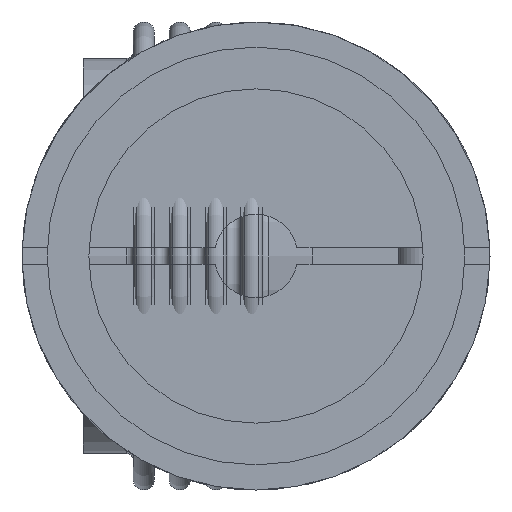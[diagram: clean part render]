
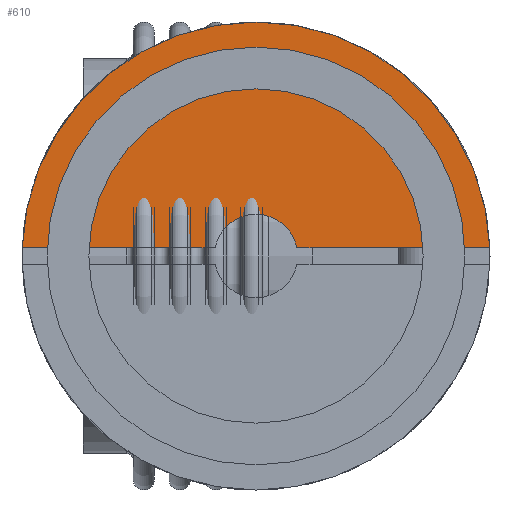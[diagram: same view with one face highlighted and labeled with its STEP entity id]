
A CAD part, front view. The second image highlights one B-rep face of the part: STEP entity #610.
In plain terms, the highlighted planar face has unit normal (0, -1, 0).
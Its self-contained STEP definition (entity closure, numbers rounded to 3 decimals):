
#610 = ADVANCED_FACE( '', ( #899 ), #900, .F. );
#899 = FACE_OUTER_BOUND( '', #1098, .T. );
#900 = PLANE( '', #1099 );
#1098 = EDGE_LOOP( '', ( #1353, #1354, #1355, #1356 ) );
#1099 = AXIS2_PLACEMENT_3D( '', #1357, #1358, #1359 );
#1353 = ORIENTED_EDGE( '', *, *, #1743, .F. );
#1354 = ORIENTED_EDGE( '', *, *, #1732, .F. );
#1355 = ORIENTED_EDGE( '', *, *, #1744, .F. );
#1356 = ORIENTED_EDGE( '', *, *, #1742, .T. );
#1357 = CARTESIAN_POINT( '', ( 0., -27., 0. ) );
#1358 = DIRECTION( '', ( 0., 1., 0. ) );
#1359 = DIRECTION( '', ( 0., 0., 1. ) );
#1732 = EDGE_CURVE( '', #1931, #1933, #1934, .T. );
#1742 = EDGE_CURVE( '', #1947, #1951, #1953, .T. );
#1743 = EDGE_CURVE( '', #1933, #1951, #1954, .T. );
#1744 = EDGE_CURVE( '', #1947, #1931, #1955, .T. );
#1931 = VERTEX_POINT( '', #2150 );
#1933 = VERTEX_POINT( '', #2153 );
#1934 = CIRCLE( '', #2154, 28. );
#1947 = VERTEX_POINT( '', #2249 );
#1951 = VERTEX_POINT( '', #2254 );
#1953 = CIRCLE( '', #2257, 5. );
#1954 = LINE( '', #2258, #2259 );
#1955 = LINE( '', #2260, #2261 );
#2150 = CARTESIAN_POINT( '', ( -27.982, -27., 1. ) );
#2153 = CARTESIAN_POINT( '', ( 27.982, -27., 1. ) );
#2154 = AXIS2_PLACEMENT_3D( '', #2521, #2522, #2523 );
#2249 = CARTESIAN_POINT( '', ( -4.899, -27., 1. ) );
#2254 = CARTESIAN_POINT( '', ( 4.899, -27., 1. ) );
#2257 = AXIS2_PLACEMENT_3D( '', #2542, #2543, #2544 );
#2258 = CARTESIAN_POINT( '', ( 0., -27., 1. ) );
#2259 = VECTOR( '', #2545, 1000. );
#2260 = CARTESIAN_POINT( '', ( 0., -27., 1. ) );
#2261 = VECTOR( '', #2546, 1000. );
#2521 = CARTESIAN_POINT( '', ( 0., -27., 0. ) );
#2522 = DIRECTION( '', ( 0., 1., 0. ) );
#2523 = DIRECTION( '', ( 1., 0., 0. ) );
#2542 = CARTESIAN_POINT( '', ( 0., -27., 0. ) );
#2543 = DIRECTION( '', ( 0., 1., 0. ) );
#2544 = DIRECTION( '', ( 1., 0., 0. ) );
#2545 = DIRECTION( '', ( -1., 0., 0. ) );
#2546 = DIRECTION( '', ( -1., 0., 0. ) );
